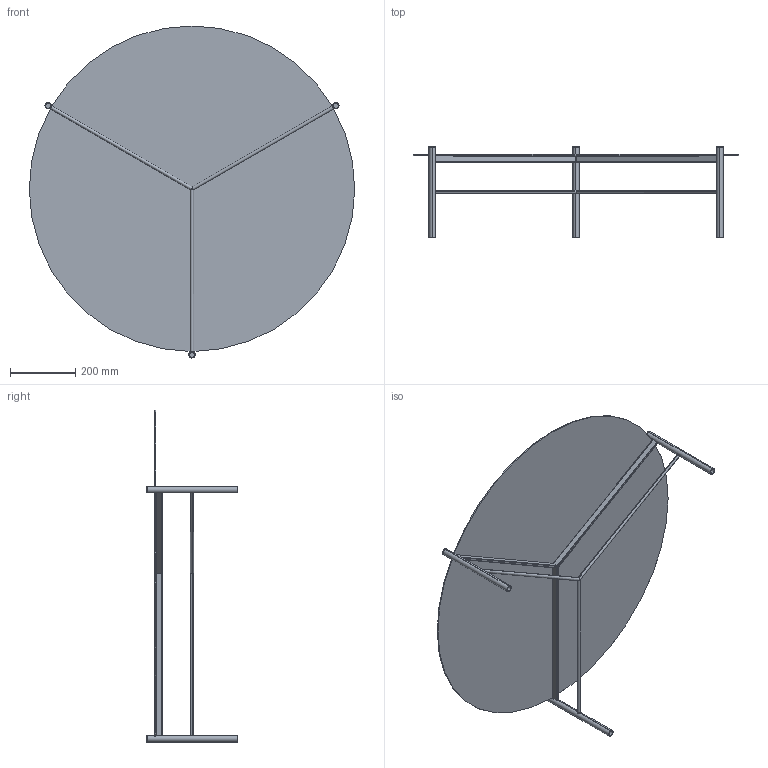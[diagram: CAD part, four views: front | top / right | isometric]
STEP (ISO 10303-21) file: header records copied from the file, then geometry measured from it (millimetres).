
FILE_DESCRIPTION (( 'STEP AP203' ), '1' );
FILE_NAME ('J103S.STEP', '2024-08-06T11:30:00', ( '' ), ( '' ), 'SwSTEP 2.0', 'SolidWorks 2022', '' );
FILE_SCHEMA (( 'CONFIG_CONTROL_DESIGN' ));
Length unit declared in the file: millimetre
Products named in the file (2): JXXXS00000000-00-jack metallo grezzo tutte le misure_J103S00000000-JACK TAVOLINO D.100x26h<A macchina>; J103S
Assembly tree (1 placements, depth 2):
  J103S
    JXXXS00000000-00-jack metallo grezzo tutte le misure_J103S00000000-JACK TAVOLINO D.100x26h<A macchina>
Bounding box: 999.98 x 279 x 1020.07 mm (x, y, z)
Volume: 2569900.5 mm3; surface area: 1913313.9 mm2
Topology: 13 solids, 13 shells, 121 faces, 287 edges, 190 vertices
Faces by surface type: cylinder 71, plane 50
Entity records: 4309 total; most frequent: CARTESIAN_POINT 1426, ORIENTED_EDGE 574, DIRECTION 521, EDGE_CURVE 287, VERTEX_POINT 190, AXIS2_PLACEMENT_3D 187, LINE 147, VECTOR 147
